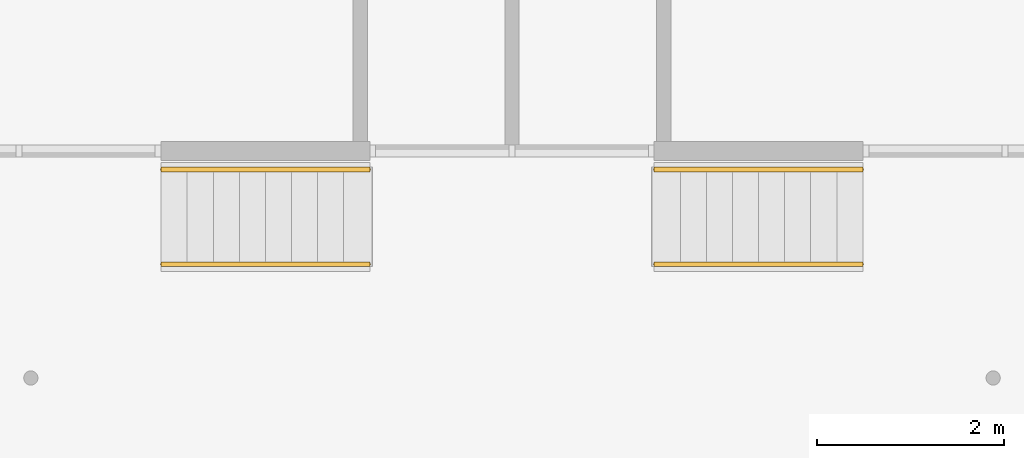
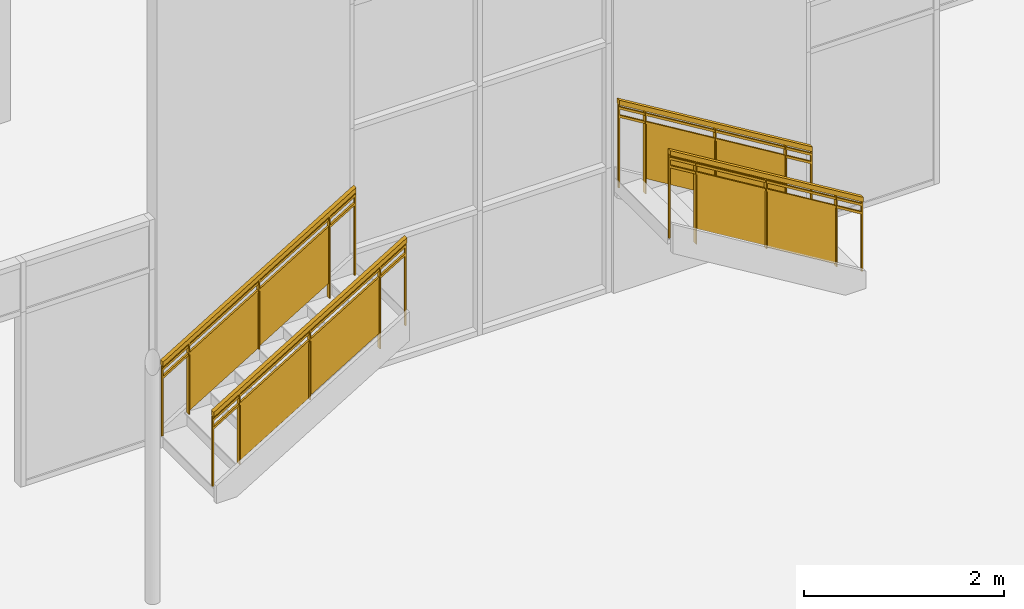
# One storey, part 11 of 12: 4 railings, 2 elements without a shape of their own.
"""IFC2X3 building model written with IfcOpenShell, lengths in feet."""

from ifc_helpers import new_model, entity, si_unit, converted_unit, derived_unit, direction, frame, origin, place, context, subcontext, project, spatial, polyline, outline, extrude, material, material_list, element, aggregate, save


model = new_model("IFC2X3")

# Units and contexts
model_context = context("Model", 3, precision=0.0001, world=origin(), true_north=direction((6.12303176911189e-17, 1.0)))
body_context = subcontext(model_context, "Body", "Model", "MODEL_VIEW")
ifc_project = project(units=[converted_unit("LENGTHUNIT", "FOOT", entity("IfcRatioMeasure", 0.3048), si_unit("LENGTHUNIT", "METRE"), dimensions=[1, 0, 0, 0, 0, 0, 0]), converted_unit("AREAUNIT", "SQUARE FOOT", entity("IfcRatioMeasure", 0.09290304), si_unit("AREAUNIT", "SQUARE_METRE"), dimensions=[2, 0, 0, 0, 0, 0, 0]), converted_unit("VOLUMEUNIT", "CUBIC FOOT", entity("IfcRatioMeasure", 0.028316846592), si_unit("VOLUMEUNIT", "CUBIC_METRE"), dimensions=[3, 0, 0, 0, 0, 0, 0]), converted_unit("PLANEANGLEUNIT", "DEGREE", entity("IfcRatioMeasure", 0.0174532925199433), si_unit("PLANEANGLEUNIT", "RADIAN"), dimensions=[0, 0, 0, 0, 0, 0, 0]), si_unit("MASSUNIT", "GRAM", prefix="KILO"), derived_unit("MASSDENSITYUNIT", [(si_unit("MASSUNIT", "GRAM", prefix="KILO"), 1), (si_unit("LENGTHUNIT", "METRE"), -3)]), si_unit("TIMEUNIT", "SECOND"), si_unit("FREQUENCYUNIT", "HERTZ"), si_unit("THERMODYNAMICTEMPERATUREUNIT", "DEGREE_CELSIUS"), derived_unit("THERMALTRANSMITTANCEUNIT", [(si_unit("MASSUNIT", "GRAM", prefix="KILO"), 1), (si_unit("THERMODYNAMICTEMPERATUREUNIT", "KELVIN"), -1), (si_unit("TIMEUNIT", "SECOND"), -3)]), derived_unit("VOLUMETRICFLOWRATEUNIT", [(si_unit("LENGTHUNIT", "METRE"), 3), (si_unit("TIMEUNIT", "SECOND"), -1)]), si_unit("ELECTRICCURRENTUNIT", "AMPERE"), si_unit("ELECTRICVOLTAGEUNIT", "VOLT"), si_unit("POWERUNIT", "WATT"), si_unit("FORCEUNIT", "NEWTON"), si_unit("ILLUMINANCEUNIT", "LUX"), si_unit("LUMINOUSFLUXUNIT", "LUMEN"), si_unit("LUMINOUSINTENSITYUNIT", "CANDELA"), derived_unit("USERDEFINED", [(si_unit("MASSUNIT", "GRAM", prefix="KILO"), -1), (si_unit("LENGTHUNIT", "METRE"), -2), (si_unit("TIMEUNIT", "SECOND"), 3), (si_unit("LUMINOUSFLUXUNIT", "LUMEN"), 1)]), derived_unit("LINEARVELOCITYUNIT", [(si_unit("LENGTHUNIT", "METRE"), 1), (si_unit("TIMEUNIT", "SECOND"), -1)]), si_unit("PRESSUREUNIT", "PASCAL"), derived_unit("USERDEFINED", [(si_unit("LENGTHUNIT", "METRE"), -2), (si_unit("MASSUNIT", "GRAM", prefix="KILO"), 1), (si_unit("TIMEUNIT", "SECOND"), -2)])], contexts=[model_context])

# Site, building, storey
site_placement = place(None, origin())
site = spatial("IfcSite", under=ifc_project, at=site_placement, Name="Default", CompositionType="ELEMENT")
building_placement = place(site_placement, origin())
building = spatial("IfcBuilding", under=site, at=building_placement, CompositionType="ELEMENT")
storey_placement = place(building_placement, origin())
storey = spatial("IfcBuildingStorey", under=building, at=storey_placement, Name="Level 1", CompositionType="ELEMENT", Elevation=0.0)

# Stair, railings
stair_1_placement = place(storey_placement, origin())
stair_1 = element("IfcStair", 1, at=stair_1_placement, inside=storey, Name="Assembled Stair:Stair", ObjectType="Assembled Stair:7\" max riser 11\" tread", ShapeType="NOTDEFINED")
ifc_material_1 = material(Name="Glass")
ifc_material_2 = material(Name="alum - color")
ifc_material_list_1 = material_list([ifc_material_1, ifc_material_2])
railing_1_placement = place(stair_1_placement, origin())
railing_1 = element("IfcRailing", 2, at=railing_1_placement, material=ifc_material_list_1, Name="Railing:Glass Panel - Bottom Fill", ObjectType="Railing:Glass Panel - Bottom Fill", PredefinedType="NOTDEFINED", context=body_context, shape_type="SweptSolid", body=[
    extrude(outline(polyline([(-1.66770817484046, -0.0208333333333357), (1.6550819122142, -0.0208333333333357), (1.6550819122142, 0.0208333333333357), (-1.64245564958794, 0.0208333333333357), (-1.66770817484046, -0.0208333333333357)])), frame((-39.9918294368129, -11.0036412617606, 5.54397080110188), z_axis=(0.0, 1.0, 0.0), x_axis=(0.0, 0.0, -1.0)), (0.0, 0.0, 1.0), 0.166666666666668),
    extrude(outline(polyline([(-1.9099825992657, -1.33333333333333), (0.293820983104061, -1.33333333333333), (1.90998259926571, 1.33333333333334), (-0.293820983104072, 1.33333333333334), (-1.9099825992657, -1.33333333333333)])), frame((-41.3251627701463, -10.9197004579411, 4.76856845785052), z_axis=(0.0, 1.0, 0.0), x_axis=(0.0, 0.0, 1.0)), (0.0, 0.0, 1.0), 0.0208333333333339),
    extrude(outline(polyline([(-1.41518292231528, -0.0208333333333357), (1.40255665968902, -0.0208333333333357), (1.40255665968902, 0.0208333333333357), (-1.38993039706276, 0.0208333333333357), (-1.41518292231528, -0.0208333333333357)])), frame((-42.6584961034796, -11.0036412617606, 4.18033443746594), z_axis=(0.0, 1.0, 0.0), x_axis=(0.0, 0.0, -1.0)), (0.0, 0.0, 1.0), 0.166666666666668),
    extrude(outline(polyline([(-1.93523512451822, -1.33333333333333), (0.319073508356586, -1.33333333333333), (1.93523512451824, 1.33333333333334), (-0.319073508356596, 1.33333333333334), (-1.93523512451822, -1.33333333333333)])), frame((-43.991829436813, -10.919700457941, 3.12715431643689), z_axis=(0.0, 1.0, 0.0), x_axis=(0.0, 0.0, 1.0)), (0.0, 0.0, 1.0), 0.0208333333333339),
    extrude(outline(polyline([(-1.4404354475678, -0.0208333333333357), (1.42780918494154, -0.0208333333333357), (1.42780918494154, 0.0208333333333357), (-1.41518292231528, 0.0208333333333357), (-1.4404354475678, -0.0208333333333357)])), frame((-45.3251627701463, -11.0036412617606, 2.53892029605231), z_axis=(0.0, 1.0, 0.0), x_axis=(0.0, 0.0, -1.0)), (0.0, 0.0, 1.0), 0.166666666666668),
    extrude(outline(polyline([(-1.69611726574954, -0.03125), (1.67717787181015, -0.03125), (1.67717787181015, 0.03125), (-1.65823847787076, 0.03125), (-1.69611726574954, -0.03125)])), frame((-39.0022461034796, -10.9515579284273, 6.12162231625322), z_axis=(0.0, 1.0, 0.0), x_axis=(0.0, 0.0, -1.0)), (0.0, 0.0, 1.0), 0.0625),
    extrude(outline(polyline([(-1.42465261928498, -0.03125), (1.40571322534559, -0.03125), (1.40571322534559, 0.03125), (-1.3867738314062, 0.03125), (-1.42465261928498, -0.03125)])), frame((-46.3147461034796, -10.9515579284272, 1.96126878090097), z_axis=(0.0, 1.0, 0.0), x_axis=(0.0, 0.0, -1.0)), (0.0, 0.0, 1.0), 0.0625),
    extrude(outline(polyline([(-4.2622544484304, -0.0416666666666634), (4.31275949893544, -0.0416666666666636), (4.2622544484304, 0.0416666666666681), (-4.31275949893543, 0.0416666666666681), (-4.2622544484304, -0.0416666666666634)])), frame((-42.6584961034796, -10.9619745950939, 5.44444444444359), z_axis=(0.0, 1.0, 0.0), x_axis=(0.855197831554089, 0.0, 0.518301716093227)), (0.0, 0.0, 1.0), 0.0833333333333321),
    extrude(outline(polyline([(-4.2622544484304, -0.0416666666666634), (4.31275949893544, -0.0416666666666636), (4.2622544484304, 0.0416666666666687), (-4.31275949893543, 0.041666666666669), (-4.2622544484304, -0.0416666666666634)])), frame((-42.6584961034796, -10.9619745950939, 5.11111111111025), z_axis=(0.0, 1.0, 0.0), x_axis=(0.855197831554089, 0.0, 0.518301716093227)), (0.0, 0.0, 1.0), 0.0833333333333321),
    extrude(outline(polyline([(-4.23700192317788, -0.0833333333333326), (4.33801202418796, -0.0833333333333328), (4.23700192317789, 0.0833333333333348), (-4.33801202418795, 0.083333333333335), (-4.23700192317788, -0.0833333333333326)])), frame((-42.6584961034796, -11.0036412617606, 5.68033443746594), z_axis=(0.0, 1.0, 0.0), x_axis=(0.855197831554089, 0.0, 0.518301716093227)), (0.0, 0.0, 1.0), 0.166666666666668),
])
ifc_material_list_2 = material_list([ifc_material_1, ifc_material_2])
railing_2_placement = place(stair_1_placement, origin())
railing_2 = element("IfcRailing", 3, at=railing_2_placement, material=ifc_material_list_2, Name="Railing:Glass Panel - Bottom Fill", ObjectType="Railing:Glass Panel - Bottom Fill", PredefinedType="NOTDEFINED", context=body_context, shape_type="SweptSolid", body=[
    extrude(outline(polyline([(0.833470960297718, -1.41542246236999), (0.882192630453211, -1.41542246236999), (-0.840015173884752, 1.4262204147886), (-0.875648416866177, 1.40462450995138), (0.833470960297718, -1.41542246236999)])), frame((-39.9918294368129, -7.67030792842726, 5.54397080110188), z_axis=(0.0, 1.0, 0.0), x_axis=(0.855197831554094, 0.0, 0.518301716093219)), (0.0, 0.0, 1.0), 0.166666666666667),
    extrude(outline(polyline([(-1.9099825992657, -1.33333333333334), (0.293820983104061, -1.33333333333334), (1.90998259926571, 1.33333333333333), (-0.293820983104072, 1.33333333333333), (-1.9099825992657, -1.33333333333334)])), frame((-41.3251627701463, -7.60841539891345, 4.76856845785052), z_axis=(0.0, 1.0, 0.0), x_axis=(0.0, 0.0, 1.0)), (0.0, 0.0, 1.0), 0.020833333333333),
    extrude(outline(polyline([(0.702586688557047, -1.19946341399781), (0.75130835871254, -1.19946341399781), (-0.709130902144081, 1.21026136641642), (-0.744764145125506, 1.1886654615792), (0.702586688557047, -1.19946341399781)])), frame((-42.6584961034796, -7.67030792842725, 4.18033443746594), z_axis=(0.0, 1.0, 0.0), x_axis=(0.855197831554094, 0.0, 0.518301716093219)), (0.0, 0.0, 1.0), 0.166666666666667),
    extrude(outline(polyline([(-1.93523512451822, -1.33333333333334), (0.319073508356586, -1.33333333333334), (1.93523512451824, 1.33333333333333), (-0.319073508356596, 1.33333333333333), (-1.93523512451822, -1.33333333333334)])), frame((-43.9918294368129, -7.60841539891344, 3.12715431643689), z_axis=(0.0, 1.0, 0.0), x_axis=(0.0, 0.0, 1.0)), (0.0, 0.0, 1.0), 0.020833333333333),
    extrude(outline(polyline([(0.715675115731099, -1.22105931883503), (0.764396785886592, -1.22105931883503), (-0.722219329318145, 1.23185727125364), (-0.757852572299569, 1.21026136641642), (0.715675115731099, -1.22105931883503)])), frame((-45.3251627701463, -7.67030792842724, 2.53892029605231), z_axis=(0.0, 1.0, 0.0), x_axis=(0.855197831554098, 0.0, 0.518301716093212)), (0.0, 0.0, 1.0), 0.166666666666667),
    extrude(outline(polyline([(0.832742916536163, -1.43431887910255), (0.905825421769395, -1.43431887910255), (-0.842559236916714, 1.45051580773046), (-0.896009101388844, 1.41812195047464), (0.832742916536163, -1.43431887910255)])), frame((-39.0022461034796, -7.61822459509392, 6.12162231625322), z_axis=(0.0, 1.0, 0.0), x_axis=(0.855197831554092, 0.0, 0.518301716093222)), (0.0, 0.0, 1.0), 0.0625),
    extrude(outline(polyline([(0.692042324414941, -1.20216290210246), (0.765124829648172, -1.20216290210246), (-0.701858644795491, 1.21835983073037), (-0.755308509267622, 1.18596597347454), (0.692042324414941, -1.20216290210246)])), frame((-46.3147461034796, -7.6182245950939, 1.96126878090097), z_axis=(0.0, 1.0, 0.0), x_axis=(0.855197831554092, 0.0, 0.518301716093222)), (0.0, 0.0, 1.0), 0.0625),
    extrude(outline(polyline([(-4.2622544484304, -0.0416666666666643), (4.31275949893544, -0.0416666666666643), (4.26225444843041, 0.0416666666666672), (-4.31275949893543, 0.0416666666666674), (-4.2622544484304, -0.0416666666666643)])), frame((-42.6584961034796, -7.62864126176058, 5.44444444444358), z_axis=(0.0, 1.0, 0.0), x_axis=(0.855197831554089, 0.0, 0.518301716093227)), (0.0, 0.0, 1.0), 0.083333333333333),
    extrude(outline(polyline([(-4.2622544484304, -0.0416666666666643), (4.31275949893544, -0.0416666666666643), (4.26225444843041, 0.0416666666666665), (-4.31275949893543, 0.0416666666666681), (-4.2622544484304, -0.0416666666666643)])), frame((-42.6584961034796, -7.62864126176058, 5.11111111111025), z_axis=(0.0, 1.0, 0.0), x_axis=(0.855197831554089, 0.0, 0.518301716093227)), (0.0, 0.0, 1.0), 0.083333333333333),
    extrude(outline(polyline([(-4.23700192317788, -0.0833333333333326), (4.33801202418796, -0.0833333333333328), (4.23700192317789, 0.0833333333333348), (-4.33801202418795, 0.083333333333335), (-4.23700192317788, -0.0833333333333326)])), frame((-42.6584961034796, -7.67030792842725, 5.68033443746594), z_axis=(0.0, 1.0, 0.0), x_axis=(0.855197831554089, 0.0, 0.518301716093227)), (0.0, 0.0, 1.0), 0.166666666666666),
])
aggregate(stair_1, [railing_1, railing_2])

stair_2_placement = place(storey_placement, origin())
stair_2 = element("IfcStair", 4, at=stair_2_placement, inside=storey, Name="Assembled Stair:Stair", ObjectType="Assembled Stair:7\" max riser 11\" tread", ShapeType="NOTDEFINED")
ifc_material_list_3 = material_list([ifc_material_1, ifc_material_2])
railing_3_placement = place(stair_2_placement, origin())
railing_3 = element("IfcRailing", 5, at=railing_3_placement, material=ifc_material_list_3, Name="Railing:Glass Panel - Bottom Fill", ObjectType="Railing:Glass Panel - Bottom Fill", PredefinedType="NOTDEFINED", context=body_context, shape_type="SweptSolid", body=[
    extrude(outline(polyline([(-0.882192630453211, -1.41542246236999), (-0.833470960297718, -1.41542246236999), (0.875648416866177, 1.40462450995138), (0.840015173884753, 1.4262204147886), (-0.882192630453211, -1.41542246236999)])), frame((-27.9918294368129, -11.0036412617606, 5.54397080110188), z_axis=(0.0, 1.0, 0.0), x_axis=(0.855197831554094, 0.0, -0.518301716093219)), (0.0, 0.0, 1.0), 0.166666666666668),
    extrude(outline(polyline([(-2.1302110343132, -0.942344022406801), (0.987975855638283, -0.942344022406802), (2.13021103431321, 0.94234402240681), (-0.987975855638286, 0.94234402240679), (-2.1302110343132, -0.942344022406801)])), frame((-26.6584961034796, -10.9197004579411, 4.76856845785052), z_axis=(0.0, 1.0, 0.0), x_axis=(-0.855197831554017, 0.0, 0.518301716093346)), (0.0, 0.0, 1.0), 0.0208333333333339),
    extrude(outline(polyline([(-0.75130835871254, -1.19946341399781), (-0.702586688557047, -1.19946341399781), (0.744764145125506, 1.1886654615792), (0.709130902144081, 1.21026136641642), (-0.75130835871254, -1.19946341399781)])), frame((-25.3251627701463, -11.0036412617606, 4.18033443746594), z_axis=(0.0, 1.0, 0.0), x_axis=(0.855197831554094, 0.0, -0.518301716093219)), (0.0, 0.0, 1.0), 0.166666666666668),
    extrude(outline(polyline([(-2.14329946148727, -0.963939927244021), (0.974887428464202, -0.963939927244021), (2.14329946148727, 0.963939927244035), (-0.974887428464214, 0.963939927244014), (-2.14329946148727, -0.963939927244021)])), frame((-23.9918294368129, -10.919700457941, 3.12715431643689), z_axis=(0.0, 1.0, 0.0), x_axis=(-0.855197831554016, 0.0, 0.518301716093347)), (0.0, 0.0, 1.0), 0.0208333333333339),
    extrude(outline(polyline([(-0.764396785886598, -1.22105931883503), (-0.715675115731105, -1.22105931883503), (0.757852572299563, 1.21026136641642), (0.722219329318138, 1.23185727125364), (-0.764396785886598, -1.22105931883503)])), frame((-22.6584961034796, -11.0036412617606, 2.53892029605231), z_axis=(0.0, 1.0, 0.0), x_axis=(0.855197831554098, 0.0, -0.518301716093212)), (0.0, 0.0, 1.0), 0.166666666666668),
    extrude(outline(polyline([(-0.905825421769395, -1.43431887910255), (-0.832742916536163, -1.43431887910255), (0.896009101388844, 1.41812195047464), (0.842559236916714, 1.45051580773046), (-0.905825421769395, -1.43431887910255)])), frame((-28.9814127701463, -10.9515579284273, 6.12162231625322), z_axis=(0.0, 1.0, 0.0), x_axis=(0.855197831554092, 0.0, -0.518301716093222)), (0.0, 0.0, 1.0), 0.0625),
    extrude(outline(polyline([(-0.765124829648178, -1.20216290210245), (-0.692042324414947, -1.20216290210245), (0.755308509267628, 1.18596597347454), (0.701858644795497, 1.21835983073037), (-0.765124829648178, -1.20216290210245)])), frame((-21.6689127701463, -10.9515579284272, 1.96126878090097), z_axis=(0.0, 1.0, 0.0), x_axis=(0.85519783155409, 0.0, -0.518301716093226)), (0.0, 0.0, 1.0), 0.0625),
    extrude(outline(polyline([(-4.31275949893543, -0.0416666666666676), (4.2622544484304, -0.0416666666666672), (4.31275949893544, 0.0416666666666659), (-4.2622544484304, 0.0416666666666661), (-4.31275949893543, -0.0416666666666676)])), frame((-25.3251627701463, -10.9619745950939, 5.44444444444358), z_axis=(0.0, 1.0, 0.0), x_axis=(-0.855197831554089, 0.0, 0.518301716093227)), (0.0, 0.0, 1.0), 0.0833333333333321),
    extrude(outline(polyline([(-4.31275949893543, -0.0416666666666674), (4.2622544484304, -0.0416666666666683), (4.31275949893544, 0.0416666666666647), (-4.2622544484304, 0.0416666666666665), (-4.31275949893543, -0.0416666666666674)])), frame((-25.3251627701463, -10.9619745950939, 5.11111111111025), z_axis=(0.0, 1.0, 0.0), x_axis=(-0.855197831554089, 0.0, 0.518301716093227)), (0.0, 0.0, 1.0), 0.0833333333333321),
    extrude(outline(polyline([(-4.33801202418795, -0.083333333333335), (4.23700192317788, -0.0833333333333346), (4.33801202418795, 0.083333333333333), (-4.23700192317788, 0.0833333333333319), (-4.33801202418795, -0.083333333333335)])), frame((-25.3251627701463, -11.0036412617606, 5.68033443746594), z_axis=(0.0, 1.0, 0.0), x_axis=(-0.855197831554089, 0.0, 0.518301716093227)), (0.0, 0.0, 1.0), 0.166666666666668),
])
ifc_material_list_4 = material_list([ifc_material_1, ifc_material_2])
railing_4_placement = place(stair_2_placement, origin())
railing_4 = element("IfcRailing", 6, at=railing_4_placement, material=ifc_material_list_4, Name="Railing:Glass Panel - Bottom Fill", ObjectType="Railing:Glass Panel - Bottom Fill", PredefinedType="NOTDEFINED", context=body_context, shape_type="SweptSolid", body=[
    extrude(outline(polyline([(-1.64245564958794, -0.0208333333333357), (1.6550819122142, -0.0208333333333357), (1.6550819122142, 0.0208333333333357), (-1.66770817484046, 0.0208333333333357), (-1.64245564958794, -0.0208333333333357)])), frame((-27.9918294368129, -7.67030792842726, 5.54397080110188), z_axis=(0.0, 1.0, 0.0), x_axis=(0.0, 0.0, -1.0)), (0.0, 0.0, 1.0), 0.166666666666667),
    extrude(outline(polyline([(-2.1302110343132, -0.942344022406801), (0.987975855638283, -0.942344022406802), (2.13021103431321, 0.94234402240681), (-0.987975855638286, 0.94234402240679), (-2.1302110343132, -0.942344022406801)])), frame((-26.6584961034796, -7.60841539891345, 4.76856845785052), z_axis=(0.0, 1.0, 0.0), x_axis=(-0.855197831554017, 0.0, 0.518301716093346)), (0.0, 0.0, 1.0), 0.020833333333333),
    extrude(outline(polyline([(-1.38993039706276, -0.0208333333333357), (1.40255665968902, -0.0208333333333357), (1.40255665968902, 0.0208333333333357), (-1.41518292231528, 0.0208333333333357), (-1.38993039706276, -0.0208333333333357)])), frame((-25.3251627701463, -7.67030792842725, 4.18033443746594), z_axis=(0.0, 1.0, 0.0), x_axis=(0.0, 0.0, -1.0)), (0.0, 0.0, 1.0), 0.166666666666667),
    extrude(outline(polyline([(-2.14329946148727, -0.963939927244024), (0.974887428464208, -0.963939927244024), (2.14329946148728, 0.963939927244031), (-0.974887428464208, 0.96393992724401), (-2.14329946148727, -0.963939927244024)])), frame((-23.9918294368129, -7.60841539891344, 3.12715431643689), z_axis=(0.0, 1.0, 0.0), x_axis=(-0.855197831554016, 0.0, 0.518301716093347)), (0.0, 0.0, 1.0), 0.020833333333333),
    extrude(outline(polyline([(-1.41518292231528, -0.0208333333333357), (1.42780918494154, -0.0208333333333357), (1.42780918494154, 0.0208333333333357), (-1.4404354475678, 0.0208333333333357), (-1.41518292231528, -0.0208333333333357)])), frame((-22.6584961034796, -7.67030792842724, 2.53892029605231), z_axis=(0.0, 1.0, 0.0), x_axis=(0.0, 0.0, -1.0)), (0.0, 0.0, 1.0), 0.166666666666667),
    extrude(outline(polyline([(-1.65823847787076, -0.03125), (1.67717787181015, -0.03125), (1.67717787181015, 0.03125), (-1.69611726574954, 0.03125), (-1.65823847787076, -0.03125)])), frame((-28.9814127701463, -7.61822459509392, 6.12162231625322), z_axis=(0.0, 1.0, 0.0), x_axis=(0.0, 0.0, -1.0)), (0.0, 0.0, 1.0), 0.0625),
    extrude(outline(polyline([(-1.3867738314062, -0.03125), (1.40571322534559, -0.03125), (1.40571322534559, 0.03125), (-1.42465261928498, 0.03125), (-1.3867738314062, -0.03125)])), frame((-21.6689127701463, -7.6182245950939, 1.96126878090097), z_axis=(0.0, 1.0, 0.0), x_axis=(0.0, 0.0, -1.0)), (0.0, 0.0, 1.0), 0.0625),
    extrude(outline(polyline([(-4.31275949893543, -0.0416666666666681), (4.2622544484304, -0.0416666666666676), (4.31275949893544, 0.0416666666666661), (-4.2622544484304, 0.0416666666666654), (-4.31275949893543, -0.0416666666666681)])), frame((-25.3251627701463, -7.62864126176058, 5.44444444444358), z_axis=(0.0, 1.0, 0.0), x_axis=(-0.855197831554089, 0.0, 0.518301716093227)), (0.0, 0.0, 1.0), 0.083333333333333),
    extrude(outline(polyline([(-4.31275949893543, -0.041666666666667), (4.2622544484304, -0.0416666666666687), (4.31275949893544, 0.0416666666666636), (-4.2622544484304, 0.0416666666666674), (-4.31275949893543, -0.041666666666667)])), frame((-25.3251627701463, -7.62864126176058, 5.11111111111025), z_axis=(0.0, 1.0, 0.0), x_axis=(-0.855197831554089, 0.0, 0.518301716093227)), (0.0, 0.0, 1.0), 0.083333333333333),
    extrude(outline(polyline([(-4.33801202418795, -0.083333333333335), (4.23700192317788, -0.0833333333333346), (4.33801202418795, 0.083333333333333), (-4.23700192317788, 0.0833333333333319), (-4.33801202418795, -0.083333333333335)])), frame((-25.3251627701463, -7.67030792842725, 5.68033443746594), z_axis=(0.0, 1.0, 0.0), x_axis=(-0.855197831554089, 0.0, 0.518301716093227)), (0.0, 0.0, 1.0), 0.166666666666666),
])
aggregate(stair_2, [railing_3, railing_4])

save(model, "model.ifc")
